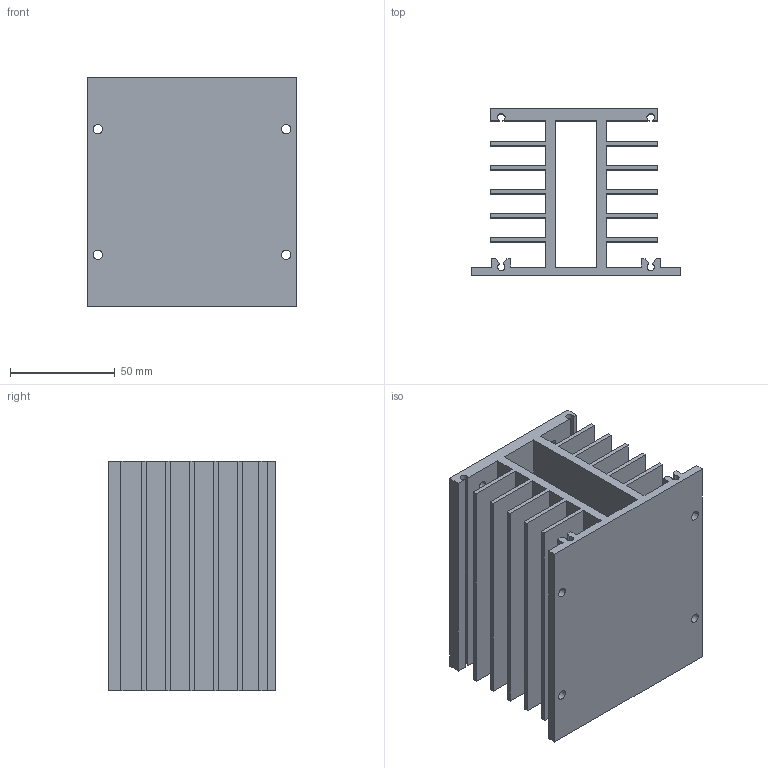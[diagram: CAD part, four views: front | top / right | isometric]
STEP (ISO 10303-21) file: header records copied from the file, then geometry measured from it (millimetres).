
FILE_DESCRIPTION(('FreeCAD Model'),'2;1');
FILE_NAME('Open CASCADE Shape Model','2026-04-28T09:34:13',(''),(''), 'Open CASCADE STEP processor 7.8','FreeCAD','Unknown');
FILE_SCHEMA(('AUTOMOTIVE_DESIGN { 1 0 10303 214 1 1 1 1 }'));
Length unit declared in the file: millimetre
Products named in the file (1): Dissipador
Bounding box: 100 x 80 x 110 mm (x, y, z)
Volume: 223217.8 mm3; surface area: 136863.6 mm2
Topology: 1 solids, 1 shells, 88 faces, 267 edges, 181 vertices
Faces by surface type: plane 74, cylinder 14
Full cylindrical faces by diameter (mm): 4 x6, 4.5 x4
Entity records: 3036 total; most frequent: CARTESIAN_POINT 547, ORIENTED_EDGE 534, DIRECTION 472, EDGE_CURVE 267, LINE 220, VECTOR 220, VERTEX_POINT 181, AXIS2_PLACEMENT_3D 126
